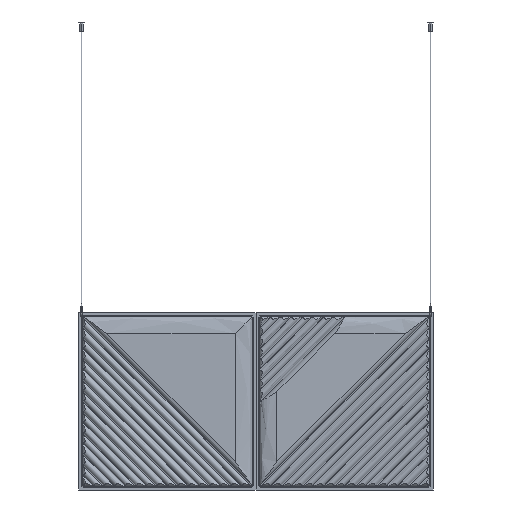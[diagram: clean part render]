
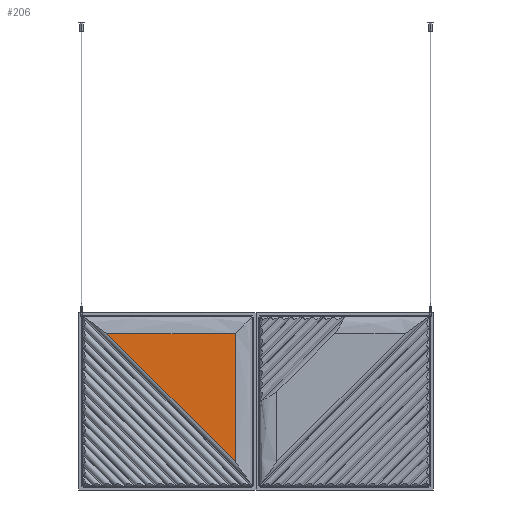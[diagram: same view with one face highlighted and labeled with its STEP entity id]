
A CAD part, front view. The second image highlights one B-rep face of the part: STEP entity #206.
In plain terms, the highlighted planar face has unit normal (0, -1, 0).
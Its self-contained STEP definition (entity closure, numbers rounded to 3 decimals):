
#206=ADVANCED_FACE('',(#587),#5919,.T.);
#587=FACE_OUTER_BOUND('',#977,.T.);
#977=EDGE_LOOP('',(#1919,#1920,#1921));
#1919=ORIENTED_EDGE('',*,*,#3442,.F.);
#1920=ORIENTED_EDGE('',*,*,#3487,.F.);
#1921=ORIENTED_EDGE('',*,*,#3449,.F.);
#3442=EDGE_CURVE('',#5298,#5297,#4213,.T.);
#3449=EDGE_CURVE('',#5297,#5304,#4219,.T.);
#3487=EDGE_CURVE('',#5304,#5298,#4256,.T.);
#4213=B_SPLINE_CURVE_WITH_KNOTS('',1,(#11757,#11758),.UNSPECIFIED.,.F.,
 .F.,(2,2),(151.633,585.954),.UNSPECIFIED.);
#4219=B_SPLINE_CURVE_WITH_KNOTS('',1,(#11807,#11808),.UNSPECIFIED.,.F.,
 .F.,(2,2),(129.916,564.237),.UNSPECIFIED.);
#4256=B_SPLINE_CURVE_WITH_KNOTS('',1,(#12481,#12482),.UNSPECIFIED.,.F.,
 .F.,(2,2),(-696.866,-82.643),.UNSPECIFIED.);
#5297=VERTEX_POINT('',#10793);
#5298=VERTEX_POINT('',#10794);
#5304=VERTEX_POINT('',#10800);
#5919=PLANE('',#6283);
#6283=AXIS2_PLACEMENT_3D('',#10123,#6509,$);
#6509=DIRECTION('',(0.,-1.,0.));
#10123=CARTESIAN_POINT('',(957.168,-664.616,1126.159));
#10793=CARTESIAN_POINT('',(1519.824,-664.616,417.219));
#10794=CARTESIAN_POINT('',(1085.503,-664.616,417.219));
#10800=CARTESIAN_POINT('',(1519.824,-664.616,-17.102));
#11757=CARTESIAN_POINT('',(1085.503,-664.616,417.219));
#11758=CARTESIAN_POINT('',(1519.824,-664.616,417.219));
#11807=CARTESIAN_POINT('',(1519.824,-664.616,417.219));
#11808=CARTESIAN_POINT('',(1519.824,-664.616,-17.102));
#12481=CARTESIAN_POINT('',(1519.824,-664.616,-17.102));
#12482=CARTESIAN_POINT('',(1085.503,-664.616,417.219));
